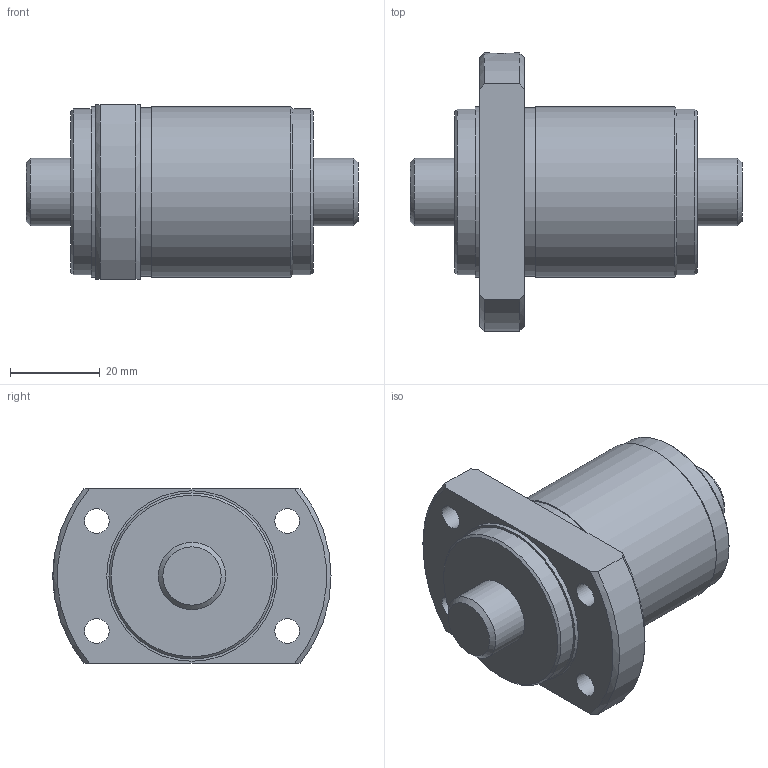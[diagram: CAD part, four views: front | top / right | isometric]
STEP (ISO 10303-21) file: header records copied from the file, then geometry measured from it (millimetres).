
FILE_DESCRIPTION(/* description */ ('STEP AP203'),/* implementation_level */ '2;1');
FILE_NAME(/* name */ 'SBK1520-3.6RRG0+74LC0(0000)',/* time_stamp */ '2024-05-28T11:19:17+02:00',/* author */ ('License CC BY-ND 4.0'),/* organization */ ('CADENAS'),/* preprocessor_version */ 'ST-DEVELOPER v19.3',/* originating_system */ 'PARTsolutions',/* authorisation */ ' ');
FILE_SCHEMA (('CONFIG_CONTROL_DESIGN'));
Length unit declared in the file: millimetre
Products named in the file (3): SBK1520-3.6RRG0+74LC0(0000); NRR000SBK 1520-3.60Shaft; NRR000SBK 1520-3.6Nut
Assembly tree (2 placements, depth 2):
  SBK1520-3.6RRG0+74LC0(0000)
    NRR000SBK 1520-3.60Shaft
    NRR000SBK 1520-3.6Nut
Bounding box: 74 x 62 x 39 mm (x, y, z)
Volume: 73912.7 mm3; surface area: 18058.8 mm2
Topology: 2 solids, 2 shells, 35 faces, 74 edges, 47 vertices
Faces by surface type: cylinder 14, cone 11, plane 10
Full cylindrical faces by diameter (mm): 4.917 x1, 5.5 x4, 15 x2, 37 x2, 37.6 x1, 38 x2
Entity records: 950 total; most frequent: CARTESIAN_POINT 171, DIRECTION 156, ORIENTED_EDGE 106, AXIS2_PLACEMENT_3D 74, FACE_BOUND 69, EDGE_LOOP 68, EDGE_CURVE 53, VERTEX_POINT 46
